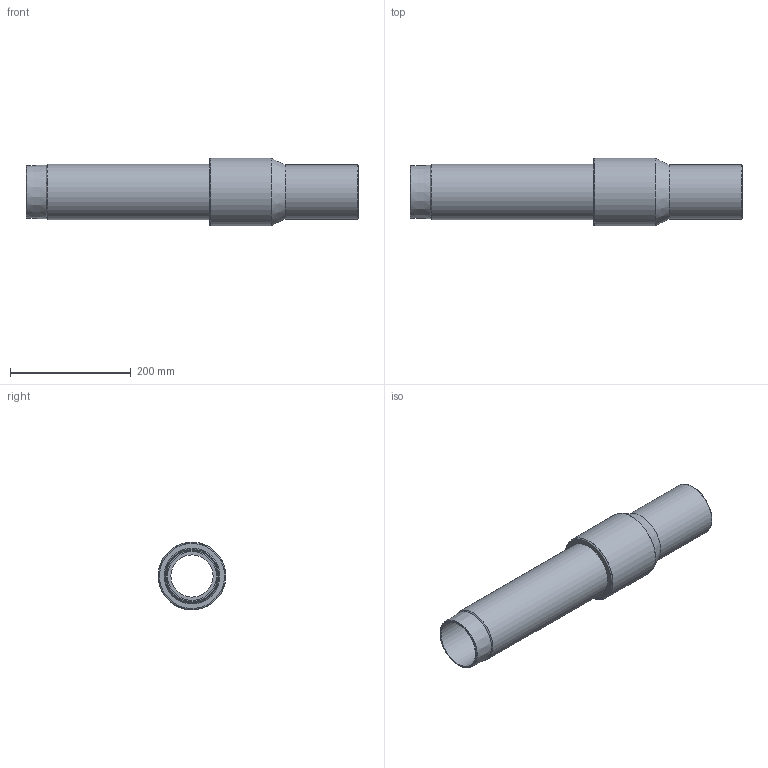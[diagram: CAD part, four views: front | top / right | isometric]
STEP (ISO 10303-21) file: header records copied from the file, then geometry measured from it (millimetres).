
FILE_DESCRIPTION(/* description */ ('Unknown'),/* implementation_level */ '2;1');
FILE_NAME(/* name */ 'RTFZRP090C',/* time_stamp */ '2022-04-27T09:13:28+02:00',/* author */ ('Unknown'),/* organization */ ('Unknown'),/* preprocessor_version */ 'ST-DEVELOPER v18.1',/* originating_system */ 'Solid Edge',/* authorisation */ 'Unknown');
FILE_SCHEMA (('AUTOMOTIVE_DESIGN {1 0 10303 214 3 1 1}'));
Length unit declared in the file: millimetre
Products named in the file (4): RTFZRP090C; Partea ACCIAIO; copertura tubo; Parte PE__oa_0
Assembly tree (3 placements, depth 2):
  RTFZRP090C
    Partea ACCIAIO
    copertura tubo
    Parte PE__oa_0
Bounding box: 551 x 112.3 x 112.34 mm (x, y, z)
Volume: 1356758.7 mm3; surface area: 572188.9 mm2
Topology: 3 solids, 3 shells, 53 faces, 115 edges, 77 vertices
Faces by surface type: plane 17, bspline 16, cylinder 14, cone 4, torus 2
Full cylindrical faces by diameter (mm): 70 x1, 80.9 x1, 88.9 x2, 90 x1, 92.5 x2, 112.4 x1
Entity records: 3019 total; most frequent: CARTESIAN_POINT 1942, ORIENTED_EDGE 166, DIRECTION 163, EDGE_LOOP 90, FACE_BOUND 90, EDGE_CURVE 83, AXIS2_PLACEMENT_3D 72, VERTEX_POINT 67
